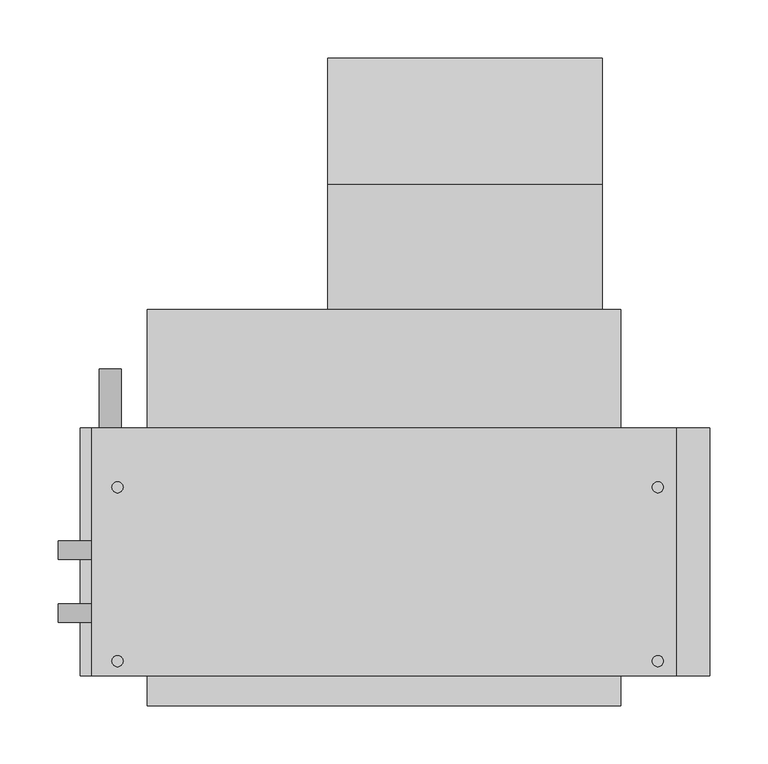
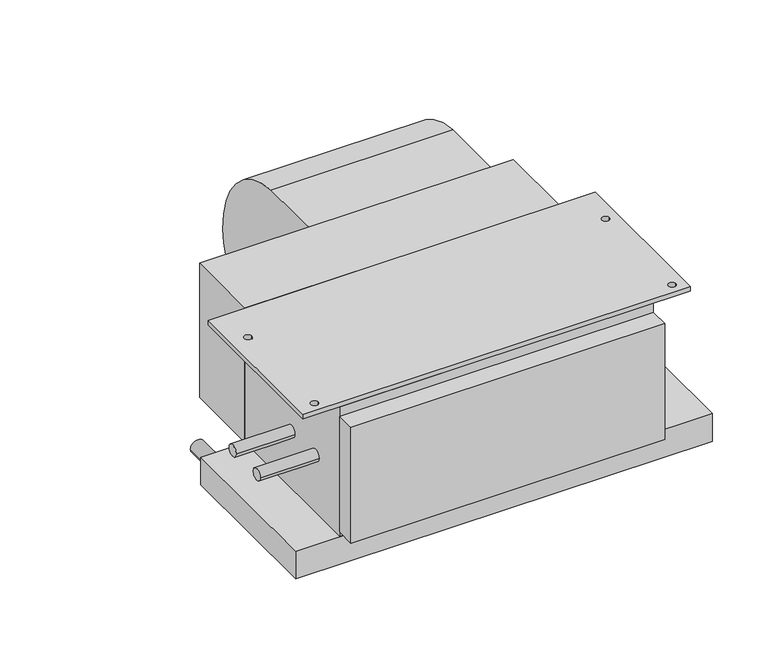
"""IFC4 building model written with IfcOpenShell, lengths in millimetres: proxy geometry, Concealed_Horizontal_Fan_Coil_Unit_-_42CAA_-_CARRIER_-_2-Pipe_Cool-EHeat_LH_2022 : Size 02 - 277v/60Hz/1Ph - 4 Row 2.0kW."""

from ifc_helpers import new_model, si_unit, point, frame, frame_2d, origin, place, context, project, spatial, polyline, circle_curve, trimmed, segment, composite_curve, outline, extrude, source, transform, mapped, element, save


def mechanical_equipment_4d875cfd(model_context):
    return source(origin(), model_context, "Body", "SweptSolid", [
        extrude(outline(composite_curve([segment(trimmed(circle_curve(frame_2d((68.401169, -136.0299844)), 117.3559541), [point((77.7875, -19.05))], [point((185.7375, -138.176))], False, "CARTESIAN"), True, "CONTINUOUS"), segment(trimmed(circle_curve(frame_2d((90.0022663, -136.4250563)), 95.7512443), [point((185.7375, -138.176))], [point((77.7875, -231.394))], False, "CARTESIAN"), True, "CONTINUOUS"), segment(trimmed(circle_curve(frame_2d((89.9711869, -136.6666968)), 95.5076133), [point((77.7875, -231.394))], [point((-5.5245, -138.176))], False, "CARTESIAN"), True, "CONTINUOUS"), segment(trimmed(circle_curve(frame_2d((-24.6059828, -138.4775816)), 19.0838659), [point((-5.5245, -138.176))], [point((-17.7963373, -120.65))], True, "CARTESIAN"), True, "CONTINUOUS"), segment(polyline([(-17.7963373, -120.65), (-30.1625, -120.65), (-30.1625, -19.05), (77.7875, -19.05)]), True, "CONTINUOUS")], self_intersect=False)), frame((104.013, 0.0, 0.0), z_axis=(1.0, 0.0, 0.0), x_axis=(0.0, 1.0, 0.0)), (0.0, 0.0, 1.0), 235.712),
        extrude(outline(polyline([(403.225, -131.7625), (403.225, -344.4875), (-98.425, -344.4875), (-98.425, -131.7625), (403.225, -131.7625)]), holes=[composite_curve([segment(trimmed(circle_curve(frame_2d((-76.2, -182.5625)), 4.7625), [point((-80.9625, -182.5625))], [point((-71.4375, -182.5625))], True, "CARTESIAN"), True, "CONTINUOUS"), segment(trimmed(circle_curve(frame_2d((-76.2, -182.5625)), 4.7625), [point((-71.4375, -182.5625))], [point((-80.9625, -182.5625))], True, "CARTESIAN"), True, "CONTINUOUS")], self_intersect=False), composite_curve([segment(trimmed(circle_curve(frame_2d((-76.2, -331.7875)), 4.7625), [point((-80.9625, -331.7875))], [point((-71.4375, -331.7875))], True, "CARTESIAN"), True, "CONTINUOUS"), segment(trimmed(circle_curve(frame_2d((-76.2, -331.7875)), 4.7625), [point((-71.4375, -331.7875))], [point((-80.9625, -331.7875))], True, "CARTESIAN"), True, "CONTINUOUS")], self_intersect=False), composite_curve([segment(trimmed(circle_curve(frame_2d((387.35, -182.5625)), 4.7625), [point((382.5875, -182.5625))], [point((392.1125, -182.5625))], True, "CARTESIAN"), True, "CONTINUOUS"), segment(trimmed(circle_curve(frame_2d((387.35, -182.5625)), 4.7625), [point((392.1125, -182.5625))], [point((382.5875, -182.5625))], True, "CARTESIAN"), True, "CONTINUOUS")], self_intersect=False), composite_curve([segment(trimmed(circle_curve(frame_2d((387.35, -331.7875)), 4.7625), [point((382.5875, -331.7875))], [point((392.1125, -331.7875))], True, "CARTESIAN"), True, "CONTINUOUS"), segment(trimmed(circle_curve(frame_2d((387.35, -331.7875)), 4.7625), [point((392.1125, -331.7875))], [point((382.5875, -331.7875))], True, "CARTESIAN"), True, "CONTINUOUS")], self_intersect=False)]), frame((0.0, 0.0, -6.35), z_axis=(0.0, 0.0, 1.0), x_axis=(1.0, 0.0, 0.0)), (0.0, 0.0, 1.0), 6.35),
        extrude(outline(polyline([(-50.8, -30.1625), (355.6, -30.1625), (355.6, -131.7625), (-50.8, -131.7625), (-50.8, -30.1625)])), frame((0.0, 0.0, -184.15), z_axis=(0.0, 0.0, 1.0), x_axis=(1.0, 0.0, 0.0)), (0.0, 0.0, 1.0), 184.15),
        extrude(outline(composite_curve([segment(trimmed(circle_curve(frame_2d((-209.55, -82.55)), 9.525), [point((-209.55, -92.075))], [point((-209.55, -73.025))], False, "CARTESIAN"), True, "CONTINUOUS"), segment(trimmed(circle_curve(frame_2d((-209.55, -82.55)), 9.525), [point((-209.55, -73.025))], [point((-209.55, -92.075))], False, "CARTESIAN"), True, "CONTINUOUS")], self_intersect=False)), frame((0.0, -131.7625, 0.0), z_axis=(0.0, 1.0, 0.0), x_axis=(0.0, 0.0, 1.0)), (0.0, 0.0, 1.0), 50.8),
        extrude(outline(polyline([(355.6, -369.8875), (-50.8, -369.8875), (-50.8, -344.4875), (355.6, -344.4875), (355.6, -369.8875)])), frame((0.0, 0.0, -177.8), z_axis=(0.0, 0.0, 1.0), x_axis=(1.0, 0.0, 0.0)), (0.0, 0.0, 1.0), 158.75),
        extrude(outline(polyline([(431.8, -131.7625), (431.8, -344.4875), (-107.95, -344.4875), (-107.95, -131.7625), (431.8, -131.7625)])), frame((0.0, 0.0, -222.25), z_axis=(0.0, 0.0, 1.0), x_axis=(1.0, 0.0, 0.0)), (0.0, 0.0, 1.0), 38.1),
        extrude(outline(composite_curve([segment(trimmed(circle_curve(frame_2d((-290.5125, -104.775)), 7.9375), [point((-282.575, -104.775))], [point((-298.45, -104.775))], False, "CARTESIAN"), True, "CONTINUOUS"), segment(trimmed(circle_curve(frame_2d((-290.5125, -104.775)), 7.9375), [point((-298.45, -104.775))], [point((-282.575, -104.775))], False, "CARTESIAN"), True, "CONTINUOUS")], self_intersect=False)), frame((-127.0, 0.0, 0.0), z_axis=(1.0, 0.0, 0.0), x_axis=(0.0, 1.0, 0.0)), (0.0, 0.0, 1.0), 76.2),
        extrude(outline(composite_curve([segment(trimmed(circle_curve(frame_2d((-236.5375, -104.775)), 7.9375), [point((-228.6, -104.775))], [point((-244.475, -104.775))], False, "CARTESIAN"), True, "CONTINUOUS"), segment(trimmed(circle_curve(frame_2d((-236.5375, -104.775)), 7.9375), [point((-244.475, -104.775))], [point((-228.6, -104.775))], False, "CARTESIAN"), True, "CONTINUOUS")], self_intersect=False)), frame((-127.0, 0.0, 0.0), z_axis=(1.0, 0.0, 0.0), x_axis=(0.0, 1.0, 0.0)), (0.0, 0.0, 1.0), 76.2),
        extrude(outline(polyline([(355.6, -344.4875), (-50.8, -344.4875), (-50.8, -131.7625), (355.6, -131.7625), (355.6, -344.4875)])), frame((0.0, 0.0, -184.15), z_axis=(0.0, 0.0, 1.0), x_axis=(1.0, 0.0, 0.0)), (0.0, 0.0, 1.0), 177.8),
    ])


if __name__ == "__main__":
    model = new_model("IFC4")
    model_context = context("Model", 3, world=origin())
    ifc_project = project(units=[si_unit("LENGTHUNIT", "METRE", prefix="MILLI")], contexts=[model_context])
    site = spatial("IfcSite", under=ifc_project)
    building = spatial("IfcBuilding", under=site)
    placement = place(None, origin())
    mechanical_equipment_shape = mechanical_equipment_4d875cfd(model_context)
    element("IfcBuildingElementProxy", 1, Name="Concealed_Horizontal_Fan_Coil_Unit_-_42CAA_-_CARRIER_-_2-Pipe_Cool-EHeat_LH_2022 : Size 02 - 277v/60Hz/1Ph - 4 Row 2.0kW", ObjectType="Concealed_Horizontal_Fan_Coil_Unit_-_42CAA_-_CARRIER_-_2-Pipe_Cool-EHeat_LH_2022 : Size 02 - 277v/60Hz/1Ph - 4 Row 2.0kW", at=placement, inside=building, context=model_context, shape_type="MappedRepresentation", body=[
        mapped(mechanical_equipment_shape, transform((0.0, 0.0, 0.0), x_axis=(1.0, 0.0, 0.0), y_axis=(0.0, 1.0, 0.0), z_axis=(0.0, 0.0, 1.0))),
    ])
    save(model, "model.ifc")
